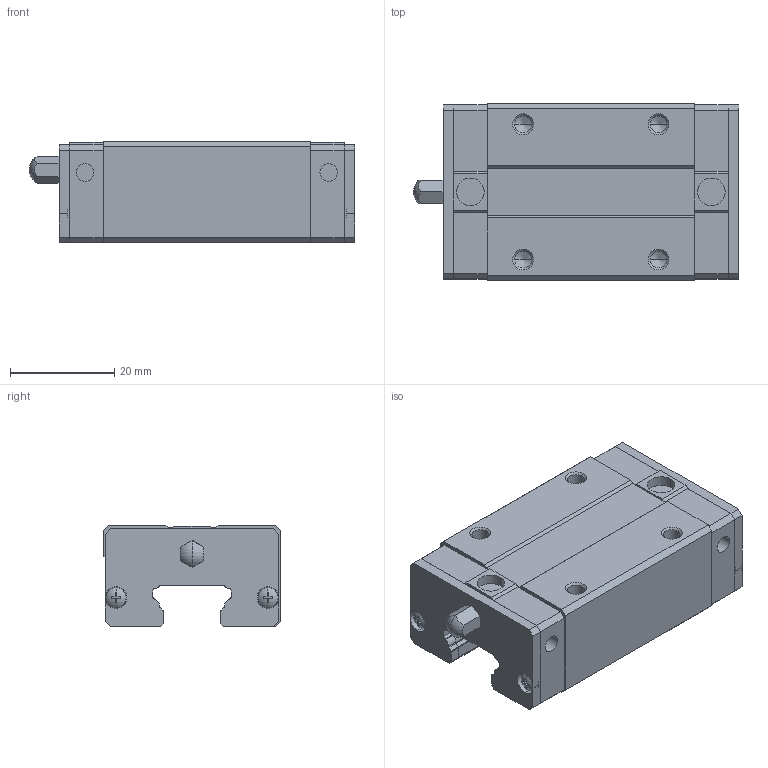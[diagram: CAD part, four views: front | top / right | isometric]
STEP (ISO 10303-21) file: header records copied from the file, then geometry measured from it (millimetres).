
FILE_DESCRIPTION(('starvars output'),'2;1');
FILE_NAME('cv20190609224549000173590.stp','22:45:50 2019/06/09',( 'Thomas Industrial Network Germany GmbH'),( 'Thomas Industrial Network Germany GmbH'),'unknown preprocess','ACIS' ,'unknown authorization');
FILE_SCHEMA(('CONFIG_CONTROL_DESIGN {UNKNOWN IMPLEMENTATION LEVEL}'));
Length unit declared in the file: millimetre
Products named in the file (10): PRODUCT_ID_1; PRODUCT_ID_2; PRODUCT_ID_3; PRODUCT_ID_4; PRODUCT_ID_5; PRODUCT_ID_6; PRODUCT_ID_7; PRODUCT_ID_8; PRODUCT_ID_9; PRODUCT_ID_10
Bounding box: 62.5 x 34 x 19.5 mm (x, y, z)
Volume: 30491.9 mm3; surface area: 13370.3 mm2
Topology: 10 solids, 10 shells, 368 faces, 969 edges, 628 vertices
Faces by surface type: plane 192, cylinder 134, cone 32, sphere 10
Entity records: 11380 total; most frequent: ORIENTED_EDGE 1930, CARTESIAN_POINT 1773, DIRECTION 1730, EDGE_CURVE 961, VERTEX_POINT 628, AXIS2_PLACEMENT_3D 585, VECTOR 560, LINE 560
